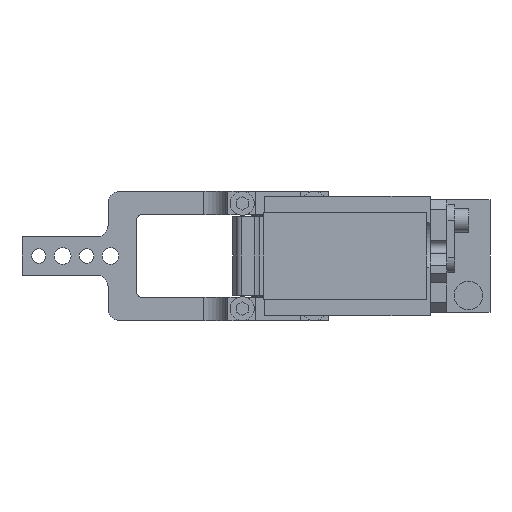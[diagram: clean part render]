
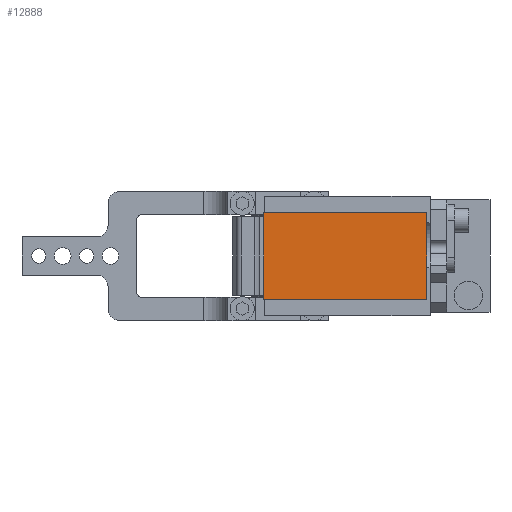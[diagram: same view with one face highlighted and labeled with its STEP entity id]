
A CAD part, front view. The second image highlights one B-rep face of the part: STEP entity #12888.
In plain terms, the highlighted planar face has unit normal (0, -1, 0).
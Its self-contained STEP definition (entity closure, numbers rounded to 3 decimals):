
#852 = LINE ( 'NONE', #4113, #14871 ) ;
#969 = VERTEX_POINT ( 'NONE', #3997 ) ;
#1591 = EDGE_LOOP ( 'NONE', ( #13741, #5760, #6524, #6786 ) ) ;
#1837 = DIRECTION ( 'NONE',  ( -1., 0., 0. ) ) ;
#2514 = CARTESIAN_POINT ( 'NONE',  ( 62., -233., -18. ) ) ;
#2583 = VECTOR ( 'NONE', #7901, 1000. ) ;
#3532 = LINE ( 'NONE', #7087, #14786 ) ;
#3859 = FACE_OUTER_BOUND ( 'NONE', #1591, .T. ) ;
#3947 = CARTESIAN_POINT ( 'NONE',  ( 0., -233., 0. ) ) ;
#3997 = CARTESIAN_POINT ( 'NONE',  ( -6., -233., 18. ) ) ;
#4113 = CARTESIAN_POINT ( 'NONE',  ( -6., -233., -18. ) ) ;
#4576 = VERTEX_POINT ( 'NONE', #2514 ) ;
#5004 = LINE ( 'NONE', #13282, #13438 ) ;
#5325 = CARTESIAN_POINT ( 'NONE',  ( 62., -233., 18. ) ) ;
#5725 = EDGE_CURVE ( 'NONE', #969, #10342, #6834, .T. ) ;
#5760 = ORIENTED_EDGE ( 'NONE', *, *, #10399, .T. ) ;
#5901 = AXIS2_PLACEMENT_3D ( 'NONE', #3947, #10884, #6332 ) ;
#6332 = DIRECTION ( 'NONE',  ( 0., 0., -1. ) ) ;
#6524 = ORIENTED_EDGE ( 'NONE', *, *, #13630, .T. ) ;
#6786 = ORIENTED_EDGE ( 'NONE', *, *, #8420, .T. ) ;
#6834 = LINE ( 'NONE', #11539, #2583 ) ;
#7087 = CARTESIAN_POINT ( 'NONE',  ( 62., -233., 18. ) ) ;
#7901 = DIRECTION ( 'NONE',  ( 0., 0., -1. ) ) ;
#8231 = DIRECTION ( 'NONE',  ( 0., 0., 1. ) ) ;
#8420 = EDGE_CURVE ( 'NONE', #13487, #969, #5004, .T. ) ;
#8819 = DIRECTION ( 'NONE',  ( 1., 0., 0. ) ) ;
#10121 = CARTESIAN_POINT ( 'NONE',  ( -6., -233., -18. ) ) ;
#10342 = VERTEX_POINT ( 'NONE', #10121 ) ;
#10399 = EDGE_CURVE ( 'NONE', #10342, #4576, #852, .T. ) ;
#10884 = DIRECTION ( 'NONE',  ( 0., -1., 0. ) ) ;
#11539 = CARTESIAN_POINT ( 'NONE',  ( -6., -233., 18. ) ) ;
#12280 = PLANE ( 'NONE',  #5901 ) ;
#12888 = ADVANCED_FACE ( 'NONE', ( #3859 ), #12280, .T. ) ;
#13282 = CARTESIAN_POINT ( 'NONE',  ( -6., -233., 18. ) ) ;
#13438 = VECTOR ( 'NONE', #1837, 1000. ) ;
#13487 = VERTEX_POINT ( 'NONE', #5325 ) ;
#13630 = EDGE_CURVE ( 'NONE', #4576, #13487, #3532, .T. ) ;
#13741 = ORIENTED_EDGE ( 'NONE', *, *, #5725, .T. ) ;
#14786 = VECTOR ( 'NONE', #8231, 1000. ) ;
#14871 = VECTOR ( 'NONE', #8819, 1000. ) ;
